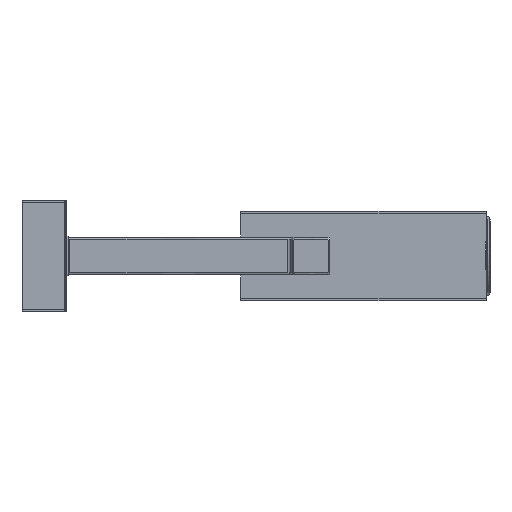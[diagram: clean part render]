
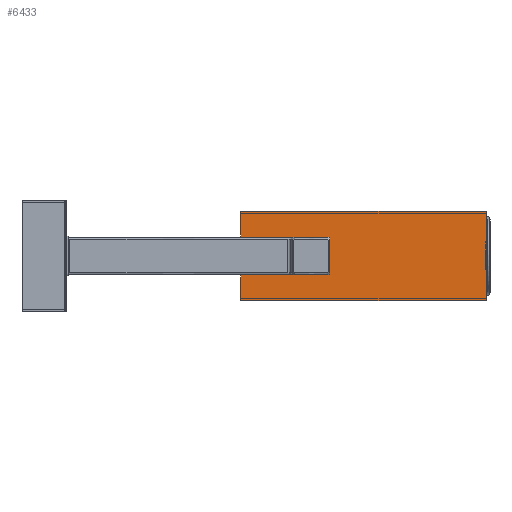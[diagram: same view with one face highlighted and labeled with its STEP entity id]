
A CAD part, left-side view. The second image highlights one B-rep face of the part: STEP entity #6433.
In plain terms, the highlighted free-form (B-spline) face has degree [1, 1] with [2, 2] control points.
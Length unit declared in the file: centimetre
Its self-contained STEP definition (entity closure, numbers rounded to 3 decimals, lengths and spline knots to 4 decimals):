
#6126 = CARTESIAN_POINT ('', (-93.58, -9.8, 0.85));
#6127 = VERTEX_POINT ('', #6126);
#6128 = CARTESIAN_POINT ('', (-93.58, -13.8, 0.85));
#6129 = VERTEX_POINT ('', #6128);
#6130 = CARTESIAN_POINT ('', (-93.58, -9.8, 0.85));
#6131 = CARTESIAN_POINT ('', (-93.58, -13.8, 0.85));
#6132 = B_SPLINE_CURVE_WITH_KNOTS ('', 1, (#6130, #6131), .UNSPECIFIED., .F., .U., (2, 2), (0., 1.), .UNSPECIFIED.);
#6133 = EDGE_CURVE ('', #6127, #6129, #6132, .T.);
#6198 = CARTESIAN_POINT ('', (-93.58, -13.8, -0.85));
#6199 = VERTEX_POINT ('', #6198);
#6200 = CARTESIAN_POINT ('', (-93.58, -9.8, -0.85));
#6201 = VERTEX_POINT ('', #6200);
#6202 = CARTESIAN_POINT ('', (-93.58, -13.8, -0.85));
#6203 = CARTESIAN_POINT ('', (-93.58, -9.8, -0.85));
#6204 = B_SPLINE_CURVE_WITH_KNOTS ('', 1, (#6202, #6203), .UNSPECIFIED., .F., .U., (2, 2), (0., 1.), .UNSPECIFIED.);
#6205 = EDGE_CURVE ('', #6199, #6201, #6204, .T.);
#6234 = CARTESIAN_POINT ('', (-93.58, -13.8, 0.85));
#6235 = CARTESIAN_POINT ('', (-93.58, -13.8, -0.85));
#6236 = B_SPLINE_CURVE_WITH_KNOTS ('', 1, (#6234, #6235), .UNSPECIFIED., .F., .U., (2, 2), (0., 1.), .UNSPECIFIED.);
#6237 = EDGE_CURVE ('', #6129, #6199, #6236, .T.);
#6375 = CARTESIAN_POINT ('', (-93.58, -9.8, 2.));
#6376 = VERTEX_POINT ('', #6375);
#6377 = CARTESIAN_POINT ('', (-93.58, -9.8, 0.85));
#6378 = CARTESIAN_POINT ('', (-93.58, -9.8, 2.));
#6379 = B_SPLINE_CURVE_WITH_KNOTS ('', 1, (#6377, #6378), .UNSPECIFIED., .F., .U., (2, 2), (0., 1.), .UNSPECIFIED.);
#6380 = EDGE_CURVE ('', #6127, #6376, #6379, .T.);
#6396 = ORIENTED_EDGE ('', *, *, #6133, .T.);
#6397 = ORIENTED_EDGE ('', *, *, #6237, .T.);
#6398 = ORIENTED_EDGE ('', *, *, #6205, .T.);
#6399 = CARTESIAN_POINT ('', (-93.58, -9.8, -2.));
#6400 = VERTEX_POINT ('', #6399);
#6401 = CARTESIAN_POINT ('', (-93.58, -9.8, -2.));
#6402 = CARTESIAN_POINT ('', (-93.58, -9.8, -0.85));
#6403 = B_SPLINE_CURVE_WITH_KNOTS ('', 1, (#6401, #6402), .UNSPECIFIED., .F., .U., (2, 2), (0., 1.), .UNSPECIFIED.);
#6404 = EDGE_CURVE ('', #6400, #6201, #6403, .T.);
#6405 = ORIENTED_EDGE ('', *, *, #6404, .F.);
#6406 = CARTESIAN_POINT ('', (-93.58, -20.8, -2.));
#6407 = VERTEX_POINT ('', #6406);
#6408 = CARTESIAN_POINT ('', (-93.58, -9.8, -2.));
#6409 = CARTESIAN_POINT ('', (-93.58, -20.8, -2.));
#6410 = B_SPLINE_CURVE_WITH_KNOTS ('', 1, (#6408, #6409), .UNSPECIFIED., .F., .U., (2, 2), (0., 1.), .UNSPECIFIED.);
#6411 = EDGE_CURVE ('', #6400, #6407, #6410, .T.);
#6412 = ORIENTED_EDGE ('', *, *, #6411, .T.);
#6413 = CARTESIAN_POINT ('', (-93.58, -20.8, 2.));
#6414 = VERTEX_POINT ('', #6413);
#6415 = CARTESIAN_POINT ('', (-93.58, -20.8, -2.));
#6416 = CARTESIAN_POINT ('', (-93.58, -20.8, 2.));
#6417 = B_SPLINE_CURVE_WITH_KNOTS ('', 1, (#6415, #6416), .UNSPECIFIED., .F., .U., (2, 2), (0., 1.), .UNSPECIFIED.);
#6418 = EDGE_CURVE ('', #6407, #6414, #6417, .T.);
#6419 = ORIENTED_EDGE ('', *, *, #6418, .T.);
#6420 = CARTESIAN_POINT ('', (-93.58, -9.8, 2.));
#6421 = CARTESIAN_POINT ('', (-93.58, -20.8, 2.));
#6422 = B_SPLINE_CURVE_WITH_KNOTS ('', 1, (#6420, #6421), .UNSPECIFIED., .F., .U., (2, 2), (0., 1.), .UNSPECIFIED.);
#6423 = EDGE_CURVE ('', #6376, #6414, #6422, .T.);
#6424 = ORIENTED_EDGE ('', *, *, #6423, .F.);
#6425 = ORIENTED_EDGE ('', *, *, #6380, .F.);
#6426 = EDGE_LOOP ('', (#6396, #6397, #6398, #6405, #6412, #6419, #6424, #6425));
#6427 = FACE_OUTER_BOUND ('', #6426, .T.);
#6428 = CARTESIAN_POINT ('', (-93.58, -9.799, 2.001));
#6429 = CARTESIAN_POINT ('', (-93.58, -20.801, 2.001));
#6430 = CARTESIAN_POINT ('', (-93.58, -9.799, -2.001));
#6431 = CARTESIAN_POINT ('', (-93.58, -20.801, -2.001));
#6432 = B_SPLINE_SURFACE_WITH_KNOTS ('', 1, 1, ((#6428, #6429), (#6430, #6431)), .UNSPECIFIED., .F., .F., .U., (2, 2), (2, 2), (-2.001, 2.001), (-0.001, 11.001), .UNSPECIFIED.);
#6433 = ADVANCED_FACE ('', (#6427), #6432, .T.);
